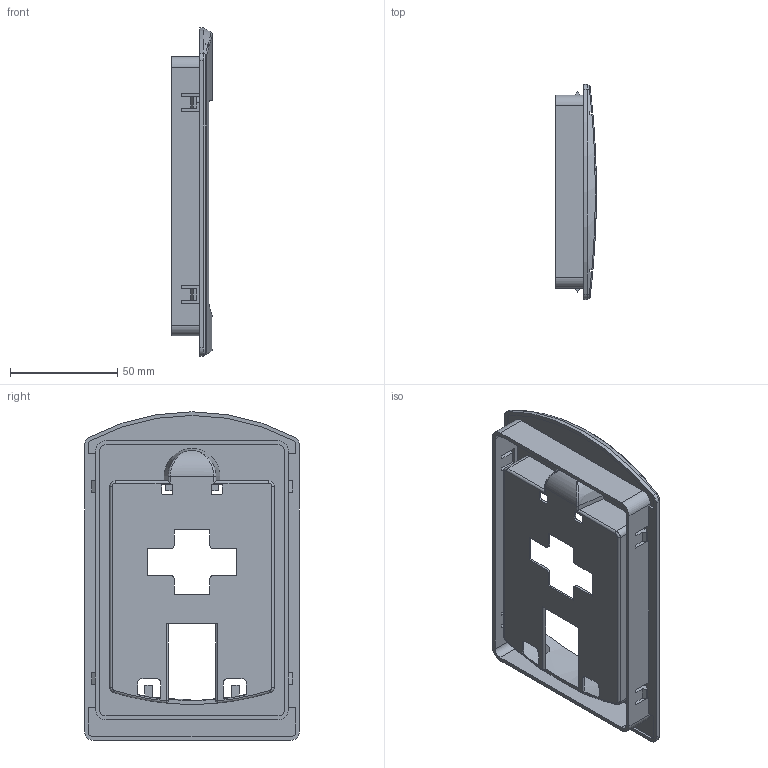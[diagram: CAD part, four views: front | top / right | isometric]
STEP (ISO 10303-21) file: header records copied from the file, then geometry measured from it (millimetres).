
FILE_DESCRIPTION(('STEP AP203'), '1');
FILE_NAME('Ðàìêà ìîíòàæíàÿ _ LCI-MF S', '', ('UNSPECIFIED'), ('UNSPECIFIED'), 'C3D Converter', 'C3D Toolkit', '');
FILE_SCHEMA(('CONFIG_CONTROL_DESIGN'));
Length unit declared in the file: millimetre
Products named in the file (1): LCI-MF-S
Bounding box: 19 x 100 x 153 mm (x, y, z)
Volume: 49509.5 mm3; surface area: 51727.9 mm2
Topology: 1 solids, 1 shells, 226 faces, 649 edges, 418 vertices
Faces by surface type: plane 136, cylinder 64, bspline 12, torus 6, cone 6, sphere 2
Entity records: 11128 total; most frequent: CARTESIAN_POINT 3379, ORIENTED_EDGE 1294, DIRECTION 1158, EDGE_CURVE 647, LINE 460, VECTOR 460, VERTEX_POINT 418, AXIS2_PLACEMENT_3D 349
